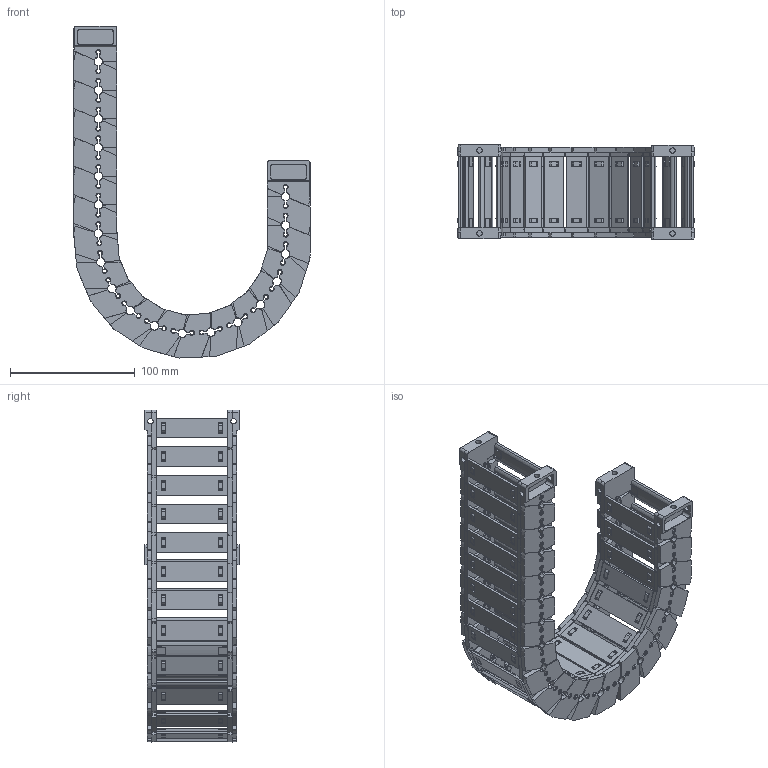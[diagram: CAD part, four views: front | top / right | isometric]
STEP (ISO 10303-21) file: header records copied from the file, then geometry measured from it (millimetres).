
FILE_DESCRIPTION((''),'2;1');
FILE_NAME('JY-28X57-R75_ASM','2026-03-26T08:45:06',('admin'),(''),'CREO PARAMETRIC BY PTC INC, 2021023','CREO PARAMETRIC BY PTC INC, 2021023','');
FILE_SCHEMA(('CONFIG_CONTROL_DESIGN'));
Length unit declared in the file: millimetre
Products named in the file (11): 28XL-L; 25-35XL-YP; 28XL-R; ASM0001_ASM; 28-LTT-A-L; 28-LTT-A-R; 28XL-LTT-A_ASM; 28-LTT-B-L; 28-LTT-B-R; 28XL-LTT-B_ASM; JY-28X57-R75_ASM
Assembly tree (32 placements, depth 3):
  JY-28X57-R75_ASM
    ASM0001_ASM  x18
      28XL-L
      25-35XL-YP
      28XL-R
    28XL-LTT-A_ASM
      28-LTT-A-L
      25-35XL-YP  x2
      28-LTT-A-R
    28XL-LTT-B_ASM
      28-LTT-B-L
      25-35XL-YP  x2
      28-LTT-B-R
Bounding box: 189.55 x 75.5 x 266.34 mm (x, y, z)
Volume: 317370.6 mm3; surface area: 230925.6 mm2
Topology: 80 solids, 80 shells, 6470 faces, 19228 edges, 12838 vertices
Faces by surface type: plane 4242, cone 1156, cylinder 934, bspline 138
Entity records: 29095 total; most frequent: CARTESIAN_POINT 9490, ORIENTED_EDGE 4352, DIRECTION 3655, EDGE_CURVE 2176, VERTEX_POINT 1454, VECTOR 1365, LINE 1365, AXIS2_PLACEMENT_3D 1145
